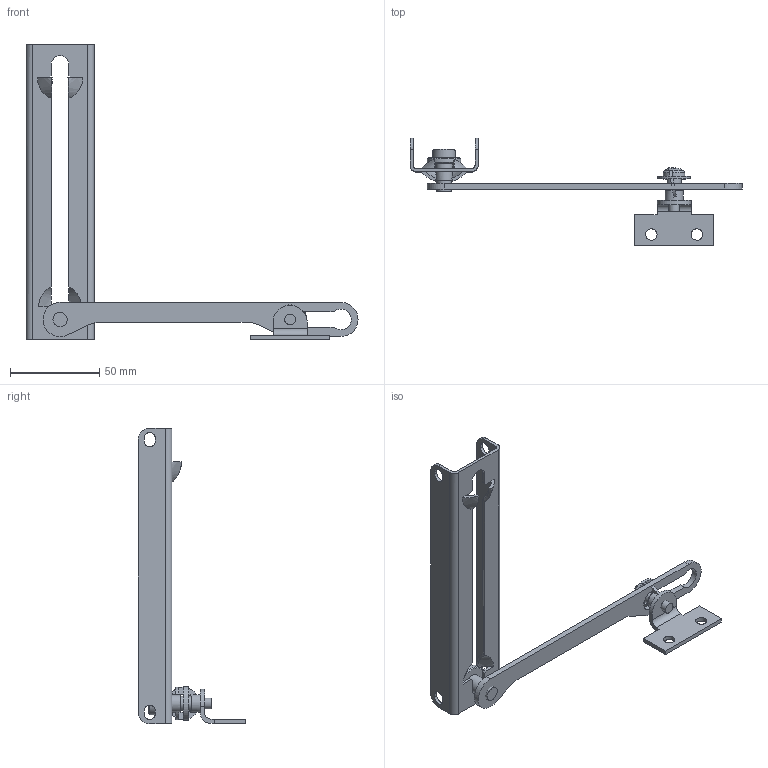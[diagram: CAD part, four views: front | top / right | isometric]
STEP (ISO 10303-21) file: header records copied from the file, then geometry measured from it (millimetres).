
FILE_DESCRIPTION((''),'2;1');
FILE_NAME('D:\scratch\ideas\316ss_doorstop.stp', '2008-04-02T07:09:26',('User'),('SDRC'),'I-DEAS Master Series 9','UNIX', 'Yes');
FILE_SCHEMA(('AUTOMOTIVE_DESIGN { 1 0 10303 214 0 1 1 1 }'));
Length unit declared in the file: inch
Products named in the file (9): 316ss_doorstop; 87796587; 87797541; 87799859; 87796591; 87796363; 87796808; 87797937; 87799860
Assembly tree (8 placements, depth 2):
  316ss_doorstop
    87796587
    87797541
    87799859
    87796591
    87796363
    87796808
    87797937
    87799860
Bounding box: 185.57 x 60.01 x 165.1 mm (x, y, z)
Volume: 30955 mm3; surface area: 33637.4 mm2
Topology: 8 solids, 8 shells, 159 faces, 391 edges, 254 vertices
Faces by surface type: bspline 159
Entity records: 5601 total; most frequent: CARTESIAN_POINT 2770, ORIENTED_EDGE 782, EDGE_CURVE 391, VERTEX_POINT 254, EDGE_LOOP 191, QUASI_UNIFORM_CURVE 169, FACE_OUTER_BOUND 159, ADVANCED_FACE 159
